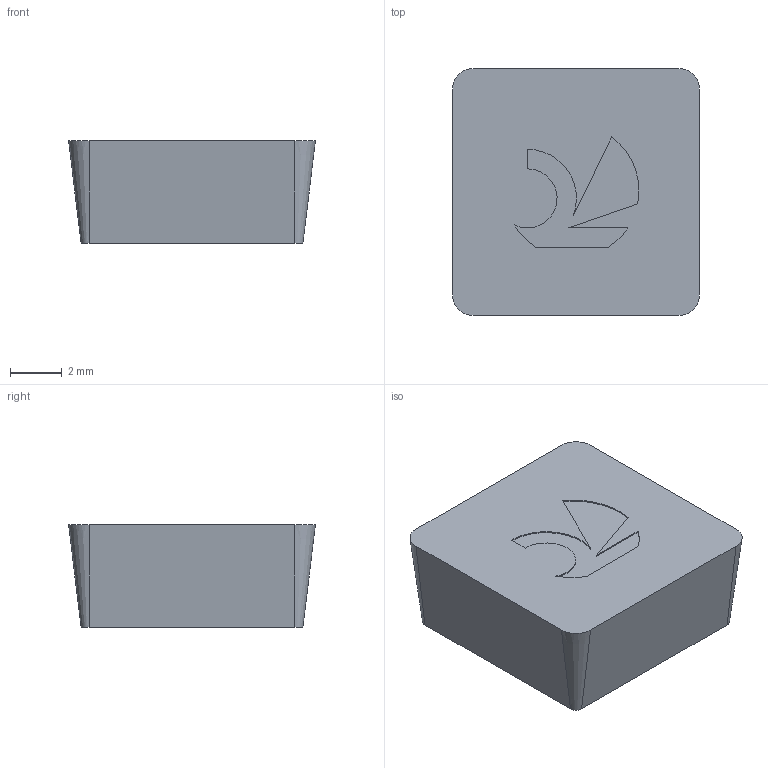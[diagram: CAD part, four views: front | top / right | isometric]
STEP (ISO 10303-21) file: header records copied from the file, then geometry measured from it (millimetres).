
FILE_DESCRIPTION(('no description'),'unknown implementation level');
FILE_NAME('solidIoC6FKFB_R_sHKty4kM7bhlEiQY_1.STP',' ',('CIMSOURCE GmbH'),('CADClick - KiM GmbH - www.kimweb.de'),'unknown preprocess','ACIS','unknown authorization');
FILE_SCHEMA(('automotive_design'));
Length unit declared in the file: millimetre
Products named in the file (1): CUT
Bounding box: 9.53 x 9.53 x 3.97 mm (x, y, z)
Volume: 322.9 mm3; surface area: 305.1 mm2
Topology: 1 solids, 1 shells, 22 faces, 57 edges, 38 vertices
Faces by surface type: plane 12, cylinder 6, cone 4
Entity records: 1366 total; most frequent: DIRECTION 127, CARTESIAN_POINT 120, STYLED_ITEM 118, PRESENTATION_STYLE_ASSIGNMENT 118, COLOUR_RGB 118, ORIENTED_EDGE 114, EDGE_CURVE 57, CURVE_STYLE 57
